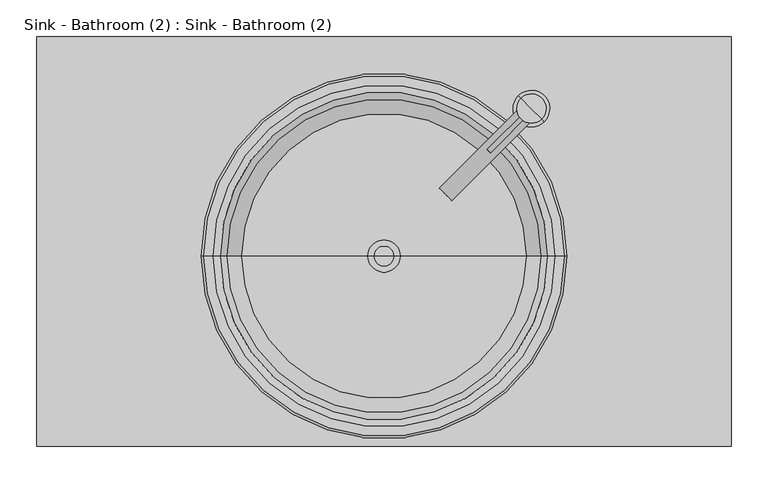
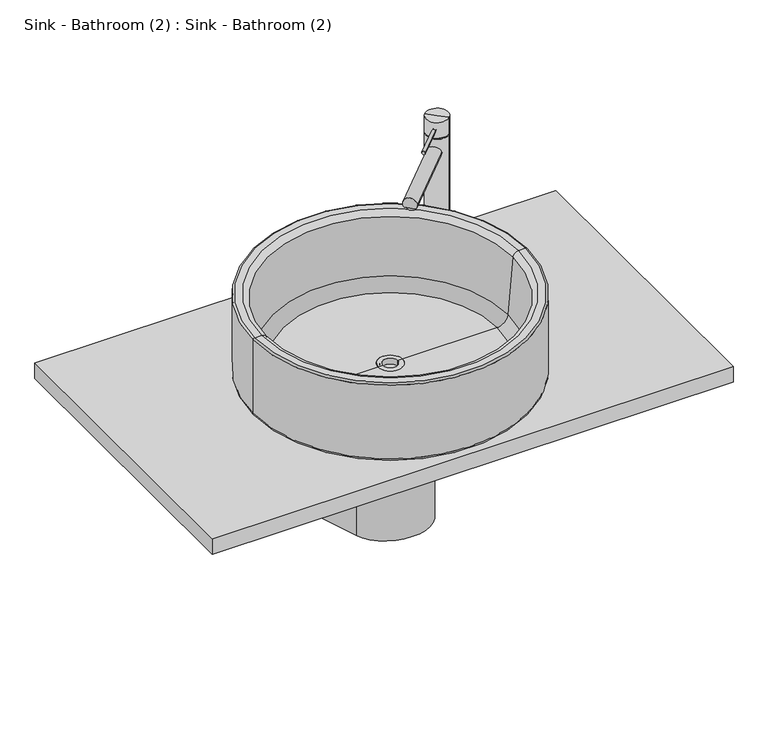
"""IFC4 building model written with IfcOpenShell, lengths in millimetres: flow terminal geometry, Sink - Bathroom (2) : Sink - Bathroom (2)."""

from ifc_helpers import new_model, si_unit, point, frame, frame_2d, origin, place, context, project, spatial, polyline, circle_curve, ellipse_curve, trimmed, segment, composite_curve, outline, extrude, source, transform, mapped, element, save
from ifc_brep_helpers import plane_surface, cylinder_surface, revolved_surface, advanced_brep


def sink_bathroom_2_sink_bathroom_2_b4141ae8(model_context):
    return source(origin(), model_context, "Body", "SolidModel", [
        advanced_brep(
        [(117.6871066, -224.1333228, 240.6419785), (100.7165438, -207.16276, 240.6419785), (102.5610803, -209.0072965, 233.1719709), (115.8425701, -222.2887863, 233.1719709), (217.8900178, -89.989286, 240.6419785), (234.8605806, -106.9598487, 240.6419785), (133.5202396, -204.6111168, 233.1719709), (120.2387498, -191.329627, 233.1719709)],
        [
            (0, 1, circle_curve(frame((109.2018252, -215.6480414, 240.6419785), z_axis=(-0.707106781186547, -0.707106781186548, 0.0), x_axis=(0.7071067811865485, -0.7071067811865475, 0.0)), 12.0)),
            (1, 2, circle_curve(frame((109.2018252, -215.6480414, 240.6419785), z_axis=(-0.707106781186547, -0.707106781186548, 0.0), x_axis=(0.7071067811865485, -0.7071067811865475, 0.0)), 12.0)),
            (2, 3),
            (3, 0, circle_curve(frame((109.2018252, -215.6480414, 240.6419785), z_axis=(-0.707106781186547, -0.707106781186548, 0.0), x_axis=(0.7071067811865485, -0.7071067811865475, 0.0)), 12.0)),
            (4, 5, circle_curve(frame((226.3752992, -98.4745674, 240.6419785), z_axis=(0.707106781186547, 0.707106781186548, 0.0), x_axis=(0.7071067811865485, -0.7071067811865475, 0.0)), 12.0)),
            (5, 4, circle_curve(frame((226.3752992, -98.4745674, 240.6419785), z_axis=(0.707106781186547, 0.707106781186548, 0.0), x_axis=(0.7071067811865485, -0.7071067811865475, 0.0)), 12.0)),
            (5, 0),
            (3, 6),
            (6, 7, circle_curve(frame((126.8794947, -197.9703719, 240.6419785), z_axis=(0.707106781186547, 0.707106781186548, 0.0), x_axis=(0.7071067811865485, -0.7071067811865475, 0.0)), 12.0)),
            (7, 2),
            (1, 4),
            (7, 6),
        ],
        [
            plane_surface(frame((117.6871066, -224.1333228, 240.6419785), z_axis=(-0.707106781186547, -0.707106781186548, 0.0), x_axis=(0.0, 0.0, 1.0))),
            plane_surface(frame((234.8605806, -106.9598487, 240.6419785), z_axis=(0.707106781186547, 0.707106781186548, 0.0), x_axis=(0.0, 0.0, -1.0))),
            cylinder_surface(frame((226.3752992, -98.4745674, 240.6419785), z_axis=(-0.7071067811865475, -0.7071067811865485, 0.0), x_axis=(0.7071067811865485, -0.7071067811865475, 0.0)), 12.0),
            plane_surface(frame((98.3017966, -204.7480128, 233.1719709), z_axis=(0.0, 0.0, -1.0), x_axis=(0.707106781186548, -0.707106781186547, 0.0))),
            plane_surface(frame((115.9794661, -187.0703433, 233.1719709), z_axis=(-0.707106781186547, -0.707106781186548, 0.0), x_axis=(0.707106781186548, -0.707106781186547, 0.0))),
        ],
        [
            (0, [[1, 2, 3, 4]]),
            (1, [[5, 6]]),
            (2, [[-6, 7, -4, 8, 9, 10, -2, 11]]),
            (2, [[-1, -7, -5, -11]]),
            (3, [[12, -8, -3, -10]]),
            (4, [[-12, -9]]),
        ],
    ),
        extrude(outline(composite_curve([segment(trimmed(circle_curve(frame_2d((0.0, -3.0)), 3.0), [point((0.0, -6.0))], [point((0.0, 0.0))], False, "CARTESIAN"), True, "CONTINUOUS"), segment(trimmed(circle_curve(frame_2d((0.0, -3.0)), 3.0), [point((0.0, 0.0))], [point((0.0, -6.0))], False, "CARTESIAN"), True, "CONTINUOUS")], self_intersect=False)), frame((170.4834109, -158.6090964, 283.2676852), z_axis=(0.707106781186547, 0.707106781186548, 0.0), x_axis=(0.0, 0.0, 1.0)), (0.0, 0.0, 1.0), 82.0430665),
        advanced_brep(
        [(226.3752992, -98.4745674, 0.0), (208.6976297, -80.7968978, 0.0), (244.0529687, -116.1522369, 0.0), (240.5174348, -112.616703, 300.0), (212.2331636, -84.3324317, 300.0), (226.3752992, -98.4745674, 300.0), (240.5174348, -112.616703, 270.0), (212.2331636, -84.3324317, 270.0), (239.1032213, -111.2024894, 270.0), (213.6473772, -85.7466453, 270.0), (239.1032213, -111.2024894, 268.0), (213.6473772, -85.7466453, 268.0), (240.5174348, -112.616703, 268.0), (212.2331636, -84.3324317, 268.0), (240.5174348, -112.616703, 4.0), (212.2331636, -84.3324317, 4.0), (244.0529687, -116.1522369, 4.0), (208.6976297, -80.7968978, 4.0)],
        [
            (0, 1),
            (1, 2, circle_curve(frame((226.3752992, -98.4745674, 0.0), z_axis=(0.0, 0.0, -1.0), x_axis=(-0.7071067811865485, 0.7071067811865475, 0.0)), 25.0)),
            (2, 0),
            (2, 1, circle_curve(frame((226.3752992, -98.4745674, 0.0), z_axis=(0.0, 0.0, -1.0), x_axis=(-0.7071067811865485, 0.7071067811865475, 0.0)), 25.0)),
            (3, 4, circle_curve(frame((226.3752992, -98.4745674, 300.0), z_axis=(0.0, 0.0, 1.0), x_axis=(-0.7071067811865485, 0.7071067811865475, 0.0)), 20.0)),
            (4, 5),
            (5, 3),
            (4, 3, circle_curve(frame((226.3752992, -98.4745674, 300.0), z_axis=(0.0, 0.0, 1.0), x_axis=(-0.7071067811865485, 0.7071067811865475, 0.0)), 20.0)),
            (3, 6),
            (6, 7, circle_curve(frame((226.3752992, -98.4745674, 270.0), z_axis=(0.0, 0.0, 1.0), x_axis=(-0.7071067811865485, 0.7071067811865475, 0.0)), 20.0)),
            (7, 4),
            (7, 6, circle_curve(frame((226.3752992, -98.4745674, 270.0), z_axis=(0.0, 0.0, 1.0), x_axis=(-0.7071067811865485, 0.7071067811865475, 0.0)), 20.0)),
            (6, 8),
            (8, 9, circle_curve(frame((226.3752992, -98.4745674, 270.0), z_axis=(0.0, 0.0, 1.0), x_axis=(-0.7071067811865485, 0.7071067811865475, 0.0)), 18.0)),
            (9, 7),
            (9, 8, circle_curve(frame((226.3752992, -98.4745674, 270.0), z_axis=(0.0, 0.0, 1.0), x_axis=(-0.7071067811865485, 0.7071067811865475, 0.0)), 18.0)),
            (8, 10),
            (10, 11, circle_curve(frame((226.3752992, -98.4745674, 268.0), z_axis=(0.0, 0.0, 1.0), x_axis=(-0.7071067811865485, 0.7071067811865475, 0.0)), 18.0)),
            (11, 9),
            (11, 10, circle_curve(frame((226.3752992, -98.4745674, 268.0), z_axis=(0.0, 0.0, 1.0), x_axis=(-0.7071067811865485, 0.7071067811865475, 0.0)), 18.0)),
            (10, 12),
            (12, 13, circle_curve(frame((226.3752992, -98.4745674, 268.0), z_axis=(0.0, 0.0, 1.0), x_axis=(-0.7071067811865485, 0.7071067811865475, 0.0)), 20.0)),
            (13, 11),
            (13, 12, circle_curve(frame((226.3752992, -98.4745674, 268.0), z_axis=(0.0, 0.0, 1.0), x_axis=(-0.7071067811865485, 0.7071067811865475, 0.0)), 20.0)),
            (12, 14),
            (14, 15, circle_curve(frame((226.3752992, -98.4745674, 4.0), z_axis=(0.0, 0.0, 1.0), x_axis=(-0.7071067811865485, 0.7071067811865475, 0.0)), 20.0)),
            (15, 13),
            (15, 14, circle_curve(frame((226.3752992, -98.4745674, 4.0), z_axis=(0.0, 0.0, 1.0), x_axis=(-0.7071067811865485, 0.7071067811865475, 0.0)), 20.0)),
            (14, 16),
            (16, 17, circle_curve(frame((226.3752992, -98.4745674, 4.0), z_axis=(0.0, 0.0, 1.0), x_axis=(-0.7071067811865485, 0.7071067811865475, 0.0)), 25.0)),
            (17, 15),
            (17, 16, circle_curve(frame((226.3752992, -98.4745674, 4.0), z_axis=(0.0, 0.0, 1.0), x_axis=(-0.7071067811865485, 0.7071067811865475, 0.0)), 25.0)),
            (1, 17),
            (16, 2),
        ],
        [
            plane_surface(frame((226.3752992, -98.4745674, 0.0), z_axis=(0.0, 0.0, -1.0), x_axis=(-0.707106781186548, 0.707106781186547, 0.0))),
            plane_surface(frame((226.3752992, -98.4745674, 300.0), z_axis=(0.0, 0.0, 1.0), x_axis=(-0.707106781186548, 0.707106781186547, 0.0))),
            cylinder_surface(frame((226.3752992, -98.4745674, -25.0), z_axis=(0.0, 0.0, -1.0), x_axis=(-0.7071067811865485, 0.7071067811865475, 0.0)), 20.0),
            plane_surface(frame((226.3752992, -98.4745674, 270.0), z_axis=(0.0, 0.0, -1.0), x_axis=(-0.707106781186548, 0.707106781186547, 0.0))),
            cylinder_surface(frame((226.3752992, -98.4745674, -25.0), z_axis=(0.0, 0.0, -1.0), x_axis=(-0.7071067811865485, 0.7071067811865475, 0.0)), 18.0),
            plane_surface(frame((226.3752992, -98.4745674, 268.0), z_axis=(0.0, 0.0, 1.0), x_axis=(-0.707106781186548, 0.707106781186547, 0.0))),
            plane_surface(frame((226.3752992, -98.4745674, 4.0), z_axis=(0.0, 0.0, 1.0), x_axis=(-0.707106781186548, 0.707106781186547, 0.0))),
            cylinder_surface(frame((226.3752992, -98.4745674, -25.0), z_axis=(0.0, 0.0, -1.0), x_axis=(-0.7071067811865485, 0.7071067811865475, 0.0)), 25.0),
        ],
        [
            (0, [[1, 2, 3]]),
            (0, [[-1, -3, 4]]),
            (1, [[5, 6, 7]]),
            (1, [[-6, 8, -7]]),
            (2, [[-5, 9, 10, 11]]),
            (2, [[-8, -11, 12, -9]]),
            (3, [[-10, 13, 14, 15]]),
            (3, [[-12, -15, 16, -13]]),
            (4, [[-14, 17, 18, 19]]),
            (4, [[-16, -19, 20, -17]]),
            (5, [[-18, 21, 22, 23]]),
            (5, [[-20, -23, 24, -21]]),
            (2, [[-22, 25, 26, 27]]),
            (2, [[-24, -27, 28, -25]]),
            (6, [[-26, 29, 30, 31]]),
            (6, [[-28, -31, 32, -29]]),
            (7, [[-2, 33, -30, 34]]),
            (7, [[-4, -34, -32, -33]]),
        ],
    ),
        advanced_brep(
        [(111.5201538, -202.0160043, 233.1719709), (122.8338623, -213.3297128, 233.1719709), (111.5201538, -202.0160043, 227.0717002), (122.8338623, -213.3297128, 227.0717002)],
        [
            (0, 1, circle_curve(frame((117.177008, -207.6728586, 233.1719709), z_axis=(0.0, 0.0, 1.0), x_axis=(0.7071067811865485, -0.7071067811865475, 0.0)), 8.0)),
            (1, 0, circle_curve(frame((117.177008, -207.6728586, 233.1719709), z_axis=(0.0, 0.0, 1.0), x_axis=(0.7071067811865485, -0.7071067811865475, 0.0)), 8.0)),
            (2, 3, circle_curve(frame((117.177008, -207.6728586, 227.0717002), z_axis=(0.0, 0.0, -1.0), x_axis=(0.7071067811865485, -0.7071067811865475, 0.0)), 8.0)),
            (3, 2, circle_curve(frame((117.177008, -207.6728586, 227.0717002), z_axis=(0.0, 0.0, -1.0), x_axis=(0.7071067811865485, -0.7071067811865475, 0.0)), 8.0)),
            (0, 2),
            (3, 1),
        ],
        [
            plane_surface(frame((122.8338623, -213.3297128, 233.1719709), z_axis=(0.0, 0.0, 1.0), x_axis=(0.707106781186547, 0.707106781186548, 0.0))),
            plane_surface(frame((122.8338623, -213.3297128, 227.0717002), z_axis=(0.0, 0.0, -1.0), x_axis=(-0.707106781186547, -0.707106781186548, 0.0))),
            cylinder_surface(frame((117.177008, -207.6728586, 227.0717002), z_axis=(0.0, 0.0, 1.0), x_axis=(0.7071067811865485, -0.7071067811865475, 0.0)), 8.0),
        ],
        [
            (0, [[1, 2]]),
            (1, [[3, 4]]),
            (2, [[-1, 5, -4, 6]]),
            (2, [[-2, -6, -3, -5]]),
        ],
    ),
        advanced_brep(
        [(93.9365302, -311.2708876, -30.0), (144.717665, 0.0, -30.0), (-95.0179319, 0.0, -30.0), (-44.2367971, -311.2708876, -30.0), (93.9365302, -311.2708876, -286.6762322), (144.717665, 0.0, -335.8242671), (-95.0179319, 0.0, -335.8242671), (-44.2367971, -311.2708876, -286.6762322)],
        [
            (0, 1),
            (1, 2),
            (2, 3),
            (3, 0, circle_curve(frame((24.8498666, -300.0, -30.0), z_axis=(0.0, 0.0, 1.0), x_axis=(1.0, 0.0, 0.0)), 70.0)),
            (0, 4),
            (4, 5),
            (5, 1),
            (5, 6),
            (6, 2),
            (6, 7),
            (7, 3),
            (7, 4, ellipse_curve(frame((24.8498666, -300.0, -288.4558461), z_axis=(0.0, 0.1559625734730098, 0.9877629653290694), x_axis=(0.0, -0.9877629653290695, 0.1559625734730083)), 70.8672044, 70.0)),
        ],
        [
            plane_surface(frame((154.8498666, 62.10691, -30.0), z_axis=(0.0, 0.0, 1.0), x_axis=(0.16101267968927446, 0.9869523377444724, 0.0))),
            plane_surface(frame((93.9365302, -311.2708876, -30.0), z_axis=(0.9869523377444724, -0.16101267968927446, 0.0), x_axis=(0.0, 0.0, -1.0))),
            plane_surface(frame((144.717665, 0.0, -30.0), z_axis=(0.0, 1.0, 0.0), x_axis=(0.0, 0.0, -1.0))),
            plane_surface(frame((-95.0179319, 0.0, -30.0), z_axis=(-0.9869523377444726, -0.1610126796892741, 0.0), x_axis=(0.0, 0.0, -1.0))),
            cylinder_surface(frame((24.8498666, -300.0, -335.8242671), z_axis=(0.0, 0.0, 1.0), x_axis=(1.0, 0.0, 0.0)), 70.0),
            plane_surface(frame((189.9645656, 0.0, -335.8242671), z_axis=(0.0, -0.1559625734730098, -0.9877629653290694), x_axis=(-1.0, 0.0, 0.0))),
        ],
        [
            (0, [[1, 2, 3, 4]]),
            (1, [[-1, 5, 6, 7]]),
            (2, [[-2, -7, 8, 9]]),
            (3, [[-3, -9, 10, 11]]),
            (4, [[-4, -11, 12, -5]]),
            (5, [[-6, -12, -10, -8]]),
        ],
    ),
        advanced_brep(
        [(38.5877729, -300.0, 15.0), (11.1119603, -300.0, 15.0), (2.8498666, -300.0, 15.0), (46.8498666, -300.0, 15.0), (38.5877729, -300.0, 3.7247134), (11.1119603, -300.0, 3.7247134), (24.8498666, -300.0, 3.7247134), (41.8498666, -300.0, 0.0), (7.8498666, -300.0, 0.0), (24.8498666, -300.0, 0.0), (41.8498666, -300.0, 13.464751), (7.8498666, -300.0, 13.464751), (46.8498666, -300.0, 13.464751), (2.8498666, -300.0, 13.464751)],
        [
            (0, 1, circle_curve(frame((24.8498666, -300.0, 15.0), z_axis=(0.0, 0.0, -1.0), x_axis=(-1.0, 0.0, 0.0)), 13.7379063)),
            (1, 2),
            (2, 3, circle_curve(frame((24.8498666, -300.0, 15.0), z_axis=(0.0, 0.0, 1.0), x_axis=(-1.0, 0.0, 0.0)), 22.0)),
            (3, 0),
            (1, 0, circle_curve(frame((24.8498666, -300.0, 15.0), z_axis=(0.0, 0.0, -1.0), x_axis=(-1.0, 0.0, 0.0)), 13.7379063)),
            (3, 2, circle_curve(frame((24.8498666, -300.0, 15.0), z_axis=(0.0, 0.0, 1.0), x_axis=(-1.0, 0.0, 0.0)), 22.0)),
            (4, 5, circle_curve(frame((24.8498666, -300.0, 3.7247134), z_axis=(0.0, 0.0, -1.0), x_axis=(-1.0, 0.0, 0.0)), 13.7379063)),
            (5, 1),
            (0, 4),
            (5, 4, circle_curve(frame((24.8498666, -300.0, 3.7247134), z_axis=(0.0, 0.0, -1.0), x_axis=(-1.0, 0.0, 0.0)), 13.7379063)),
            (6, 5),
            (4, 6),
            (7, 8, circle_curve(frame((24.8498666, -300.0, 0.0), z_axis=(0.0, 0.0, -1.0), x_axis=(-1.0, 0.0, 0.0)), 17.0)),
            (8, 9),
            (9, 7),
            (8, 7, circle_curve(frame((24.8498666, -300.0, 0.0), z_axis=(0.0, 0.0, -1.0), x_axis=(-1.0, 0.0, 0.0)), 17.0)),
            (10, 11, circle_curve(frame((24.8498666, -300.0, 13.464751), z_axis=(0.0, 0.0, -1.0), x_axis=(-1.0, 0.0, 0.0)), 17.0)),
            (11, 8),
            (7, 10),
            (11, 10, circle_curve(frame((24.8498666, -300.0, 13.464751), z_axis=(0.0, 0.0, -1.0), x_axis=(-1.0, 0.0, 0.0)), 17.0)),
            (12, 13, circle_curve(frame((24.8498666, -300.0, 13.464751), z_axis=(0.0, 0.0, -1.0), x_axis=(-1.0, 0.0, 0.0)), 22.0)),
            (13, 11),
            (10, 12),
            (13, 12, circle_curve(frame((24.8498666, -300.0, 13.464751), z_axis=(0.0, 0.0, -1.0), x_axis=(-1.0, 0.0, 0.0)), 22.0)),
            (2, 13),
            (12, 3),
        ],
        [
            plane_surface(frame((24.8498666, -300.0, 15.0), z_axis=(0.0, 0.0, 1.0), x_axis=(-1.0, 0.0, 0.0))),
            revolved_surface(polyline([(11.111960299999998, -300.0, 15.000000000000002), (11.111960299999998, -300.0, 3.7247134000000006)]), (24.8498666, -300.0, -6.9916745), (0.0, 0.0, 1.0)),
            plane_surface(frame((24.8498666, -300.0, 3.7247134), z_axis=(0.0, 0.0, 1.0), x_axis=(-1.0, 0.0, 0.0))),
            plane_surface(frame((24.8498666, -300.0, 0.0), z_axis=(0.0, 0.0, -1.0), x_axis=(-1.0, 0.0, 0.0))),
            cylinder_surface(frame((24.8498666, -300.0, -6.9916745), z_axis=(0.0, 0.0, 1.0), x_axis=(-1.0, 0.0, 0.0)), 17.0),
            plane_surface(frame((24.8498666, -300.0, 13.464751), z_axis=(0.0, 0.0, -1.0), x_axis=(-1.0, 0.0, 0.0))),
            cylinder_surface(frame((24.8498666, -300.0, -6.9916745), z_axis=(0.0, 0.0, 1.0), x_axis=(-1.0, 0.0, 0.0)), 22.0),
        ],
        [
            (0, [[1, 2, 3, 4]]),
            (0, [[5, -4, 6, -2]]),
            (1, [[7, 8, -1, 9]]),
            (1, [[10, -9, -5, -8]]),
            (2, [[11, -7, 12]]),
            (2, [[-12, -10, -11]]),
            (3, [[13, 14, 15]]),
            (3, [[16, -15, -14]]),
            (4, [[17, 18, -13, 19]]),
            (4, [[20, -19, -16, -18]]),
            (5, [[21, 22, -17, 23]]),
            (5, [[24, -23, -20, -22]]),
            (6, [[-3, 25, -21, 26]]),
            (6, [[-6, -26, -24, -25]]),
        ],
    ),
        extrude(outline(polyline([(499.8498666, 0.0), (499.8498666, -560.0), (-450.1501334, -560.0), (-450.1501334, 0.0), (499.8498666, 0.0)])), frame((0.0, 0.0, -30.0), z_axis=(0.0, 0.0, 1.0), x_axis=(1.0, 0.0, 0.0)), (0.0, 0.0, 1.0), 30.0),
        advanced_brep(
        [(274.8498666, -300.0, 5.0), (-225.1501334, -300.0, 5.0), (-220.1501334, -300.0, 0.0), (269.8498666, -300.0, 0.0), (274.8498666, -300.0, 147.0), (-225.1501334, -300.0, 147.0), (271.8498666, -300.0, 150.0), (-222.1501334, -300.0, 150.0), (259.0131783, -300.0, 150.0), (-209.3134452, -300.0, 150.0), (249.0512313, -300.0, 140.8715574), (-199.3514982, -300.0, 140.8715574), (239.6361675, -300.0, 33.2568851), (-189.9364343, -300.0, 33.2568851), (219.7122735, -300.0, 15.0), (-170.0125404, -300.0, 15.0), (46.8498666, -300.0, 15.0), (2.8498666, -300.0, 15.0), (46.8498666, -300.0, 13.464751), (2.8498666, -300.0, 13.464751), (41.8498666, -300.0, 13.464751), (7.8498666, -300.0, 13.464751), (41.8498666, -300.0, 0.0), (7.8498666, -300.0, 0.0)],
        [
            (0, 1, circle_curve(frame((24.8498666, -300.0, 5.0), z_axis=(0.0, 0.0, -1.0), x_axis=(-1.0, 0.0, 0.0)), 250.0)),
            (1, 2, circle_curve(frame((-220.1501334, -300.0, 5.0), z_axis=(0.0, -1.0, 0.0), x_axis=(-1.0, 0.0, 0.0)), 5.0)),
            (2, 3, circle_curve(frame((24.8498666, -300.0, 0.0), z_axis=(0.0, 0.0, 1.0), x_axis=(-1.0, 0.0, 0.0)), 245.0)),
            (3, 0, circle_curve(frame((269.8498666, -300.0, 5.0), z_axis=(0.0, -1.0, 0.0), x_axis=(1.0, 0.0, 0.0)), 5.0)),
            (1, 0, circle_curve(frame((24.8498666, -300.0, 5.0), z_axis=(0.0, 0.0, -1.0), x_axis=(-1.0, 0.0, 0.0)), 250.0)),
            (3, 2, circle_curve(frame((24.8498666, -300.0, 0.0), z_axis=(0.0, 0.0, 1.0), x_axis=(-1.0, 0.0, 0.0)), 245.0)),
            (4, 5, circle_curve(frame((24.8498666, -300.0, 147.0), z_axis=(0.0, 0.0, -1.0), x_axis=(-1.0, 0.0, 0.0)), 250.0)),
            (5, 1),
            (0, 4),
            (5, 4, circle_curve(frame((24.8498666, -300.0, 147.0), z_axis=(0.0, 0.0, -1.0), x_axis=(-1.0, 0.0, 0.0)), 250.0)),
            (6, 7, circle_curve(frame((24.8498666, -300.0, 150.0), z_axis=(0.0, 0.0, -1.0), x_axis=(-1.0, 0.0, 0.0)), 247.0)),
            (7, 5, circle_curve(frame((-222.1501334, -300.0, 147.0), z_axis=(0.0, -1.0, 0.0), x_axis=(-1.0, 0.0, 0.0)), 3.0)),
            (4, 6, circle_curve(frame((271.8498666, -300.0, 147.0), z_axis=(0.0, -1.0, 0.0), x_axis=(1.0, 0.0, 0.0)), 3.0)),
            (7, 6, circle_curve(frame((24.8498666, -300.0, 150.0), z_axis=(0.0, 0.0, -1.0), x_axis=(-1.0, 0.0, 0.0)), 247.0)),
            (8, 9, circle_curve(frame((24.8498666, -300.0, 150.0), z_axis=(0.0, 0.0, -1.0), x_axis=(-1.0, 0.0, 0.0)), 234.1633117)),
            (9, 7),
            (6, 8),
            (9, 8, circle_curve(frame((24.8498666, -300.0, 150.0), z_axis=(0.0, 0.0, -1.0), x_axis=(-1.0, 0.0, 0.0)), 234.1633117)),
            (10, 11, circle_curve(frame((24.8498666, -300.0, 140.8715574), z_axis=(0.0, 0.0, -1.0), x_axis=(-1.0, 0.0, 0.0)), 224.2013648)),
            (11, 9, circle_curve(frame((-209.3134452, -300.0, 140.0), z_axis=(0.0, -1.0, 0.0), x_axis=(-1.0, 0.0, 0.0)), 10.0)),
            (8, 10, circle_curve(frame((259.0131783, -300.0, 140.0), z_axis=(0.0, -1.0, 0.0), x_axis=(1.0, 0.0, 0.0)), 10.0)),
            (11, 10, circle_curve(frame((24.8498666, -300.0, 140.8715574), z_axis=(0.0, 0.0, -1.0), x_axis=(-1.0, 0.0, 0.0)), 224.2013648)),
            (12, 13, circle_curve(frame((24.8498666, -300.0, 33.2568851), z_axis=(0.0, 0.0, -1.0), x_axis=(-1.0, 0.0, 0.0)), 214.7863009)),
            (13, 11),
            (10, 12),
            (13, 12, circle_curve(frame((24.8498666, -300.0, 33.2568851), z_axis=(0.0, 0.0, -1.0), x_axis=(-1.0, 0.0, 0.0)), 214.7863009)),
            (14, 15, circle_curve(frame((24.8498666, -300.0, 15.0), z_axis=(0.0, 0.0, -1.0), x_axis=(-1.0, 0.0, 0.0)), 194.8624069)),
            (15, 13, circle_curve(frame((-170.0125404, -300.0, 35.0), z_axis=(0.0, 1.0, 0.0), x_axis=(-1.0, 0.0, 0.0)), 20.0)),
            (12, 14, circle_curve(frame((219.7122735, -300.0, 35.0), z_axis=(0.0, 1.0, 0.0), x_axis=(1.0, 0.0, 0.0)), 20.0)),
            (15, 14, circle_curve(frame((24.8498666, -300.0, 15.0), z_axis=(0.0, 0.0, -1.0), x_axis=(-1.0, 0.0, 0.0)), 194.8624069)),
            (16, 17, circle_curve(frame((24.8498666, -300.0, 15.0), z_axis=(0.0, 0.0, -1.0), x_axis=(-1.0, 0.0, 0.0)), 22.0)),
            (17, 15),
            (14, 16),
            (17, 16, circle_curve(frame((24.8498666, -300.0, 15.0), z_axis=(0.0, 0.0, -1.0), x_axis=(-1.0, 0.0, 0.0)), 22.0)),
            (18, 19, circle_curve(frame((24.8498666, -300.0, 13.464751), z_axis=(0.0, 0.0, -1.0), x_axis=(-1.0, 0.0, 0.0)), 22.0)),
            (19, 17),
            (16, 18),
            (19, 18, circle_curve(frame((24.8498666, -300.0, 13.464751), z_axis=(0.0, 0.0, -1.0), x_axis=(-1.0, 0.0, 0.0)), 22.0)),
            (20, 21, circle_curve(frame((24.8498666, -300.0, 13.464751), z_axis=(0.0, 0.0, -1.0), x_axis=(-1.0, 0.0, 0.0)), 17.0)),
            (21, 19),
            (18, 20),
            (21, 20, circle_curve(frame((24.8498666, -300.0, 13.464751), z_axis=(0.0, 0.0, -1.0), x_axis=(-1.0, 0.0, 0.0)), 17.0)),
            (22, 23, circle_curve(frame((24.8498666, -300.0, 0.0), z_axis=(0.0, 0.0, -1.0), x_axis=(-1.0, 0.0, 0.0)), 17.0)),
            (23, 21),
            (20, 22),
            (23, 22, circle_curve(frame((24.8498666, -300.0, 0.0), z_axis=(0.0, 0.0, -1.0), x_axis=(-1.0, 0.0, 0.0)), 17.0)),
            (2, 23),
            (22, 3),
        ],
        [
            revolved_surface(trimmed(ellipse_curve(frame((-220.1501334, -300.0, 5.0), z_axis=(0.0, 1.0, 0.0), x_axis=(-1.0, 0.0, 0.0)), 5.0, 5.0), [point((-220.1501334, -300.0, 0.0))], [point((-225.1501334, -300.0, 5.0))], True, "CARTESIAN"), (24.8498666, -300.0, -50.0), (0.0, 0.0, 1.0)),
            cylinder_surface(frame((24.8498666, -300.0, -50.0), z_axis=(0.0, 0.0, 1.0), x_axis=(-1.0, 0.0, 0.0)), 250.0),
            revolved_surface(trimmed(ellipse_curve(frame((-222.1501334, -300.0, 147.0), z_axis=(0.0, 1.0, 0.0), x_axis=(-1.0, 0.0, 0.0)), 3.0, 3.0), [point((-225.1501334, -300.0, 147.0))], [point((-222.1501334, -300.0, 150.0))], True, "CARTESIAN"), (24.8498666, -300.0, -50.0), (0.0, 0.0, 1.0)),
            plane_surface(frame((24.8498666, -300.0, 150.0), z_axis=(0.0, 0.0, 1.0), x_axis=(-1.0, 0.0, 0.0))),
            revolved_surface(trimmed(ellipse_curve(frame((-209.3134452, -300.0, 140.0), z_axis=(0.0, 1.0, 0.0), x_axis=(-1.0, 0.0, 0.0)), 10.0, 10.0), [point((-209.3134452, -300.0, 150.0))], [point((-199.3514982, -300.0, 140.8715574))], True, "CARTESIAN"), (24.8498666, -300.0, -50.0), (0.0, 0.0, 1.0)),
            revolved_surface(polyline([(-199.3514982, -300.0, 140.8715574), (-189.9364343, -300.0, 33.2568851)]), (24.8498666, -300.0, -50.0), (0.0, 0.0, 1.0)),
            revolved_surface(trimmed(ellipse_curve(frame((-170.0125404, -300.0, 35.0), z_axis=(0.0, -1.0, 0.0), x_axis=(-1.0, 0.0, 0.0)), 20.0, 20.0), [point((-189.9364343, -300.0, 33.2568851))], [point((-170.0125404, -300.0, 15.0))], True, "CARTESIAN"), (24.8498666, -300.0, -50.0), (0.0, 0.0, 1.0)),
            plane_surface(frame((24.8498666, -300.0, 15.0), z_axis=(0.0, 0.0, 1.0), x_axis=(-1.0, 0.0, 0.0))),
            revolved_surface(polyline([(2.8498665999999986, -300.0, 15.0), (2.8498665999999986, -300.0, 13.464751)]), (24.8498666, -300.0, -50.0), (0.0, 0.0, 1.0)),
            plane_surface(frame((24.8498666, -300.0, 13.464751), z_axis=(0.0, 0.0, 1.0), x_axis=(-1.0, 0.0, 0.0))),
            revolved_surface(polyline([(7.849866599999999, -300.0, 13.464751), (7.849866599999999, -300.0, 0.0)]), (24.8498666, -300.0, -50.0), (0.0, 0.0, 1.0)),
            plane_surface(frame((24.8498666, -300.0, 0.0), z_axis=(0.0, 0.0, -1.0), x_axis=(-1.0, 0.0, 0.0))),
        ],
        [
            (0, [[1, 2, 3, 4]]),
            (0, [[5, -4, 6, -2]]),
            (1, [[7, 8, -1, 9]]),
            (1, [[10, -9, -5, -8]]),
            (2, [[11, 12, -7, 13]]),
            (2, [[14, -13, -10, -12]]),
            (3, [[15, 16, -11, 17]]),
            (3, [[18, -17, -14, -16]]),
            (4, [[19, 20, -15, 21]]),
            (4, [[22, -21, -18, -20]]),
            (5, [[23, 24, -19, 25]]),
            (5, [[26, -25, -22, -24]]),
            (6, [[27, 28, -23, 29]]),
            (6, [[30, -29, -26, -28]]),
            (7, [[31, 32, -27, 33]]),
            (7, [[34, -33, -30, -32]]),
            (8, [[35, 36, -31, 37]]),
            (8, [[38, -37, -34, -36]]),
            (9, [[39, 40, -35, 41]]),
            (9, [[42, -41, -38, -40]]),
            (10, [[43, 44, -39, 45]]),
            (10, [[46, -45, -42, -44]]),
            (11, [[-3, 47, -43, 48]]),
            (11, [[-6, -48, -46, -47]]),
        ],
    ),
    ])


if __name__ == "__main__":
    model = new_model("IFC4")
    model_context = context("Model", 3, world=origin())
    ifc_project = project(units=[si_unit("LENGTHUNIT", "METRE", prefix="MILLI")], contexts=[model_context])
    site = spatial("IfcSite", under=ifc_project)
    building = spatial("IfcBuilding", under=site)
    placement = place(None, origin())
    sink_bathroom_2_sink_bathroom_2_shape = sink_bathroom_2_sink_bathroom_2_b4141ae8(model_context)
    element("IfcFlowTerminal", 1, ObjectType="Sink - Bathroom (2) : Sink - Bathroom (2)", at=placement, inside=building, context=model_context, shape_type="MappedRepresentation", body=[
        mapped(sink_bathroom_2_sink_bathroom_2_shape, transform((0.0, 0.0, 0.0), x_axis=(1.0, 0.0, 0.0), y_axis=(0.0, 1.0, 0.0), z_axis=(0.0, 0.0, 1.0))),
    ])
    save(model, "model.ifc")
